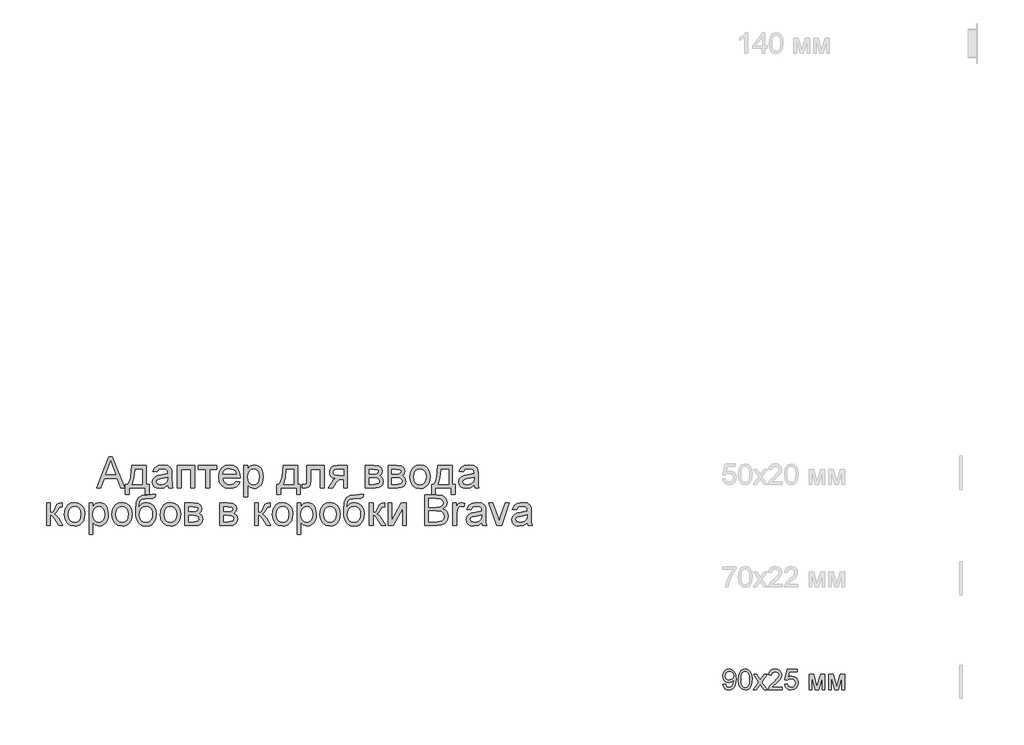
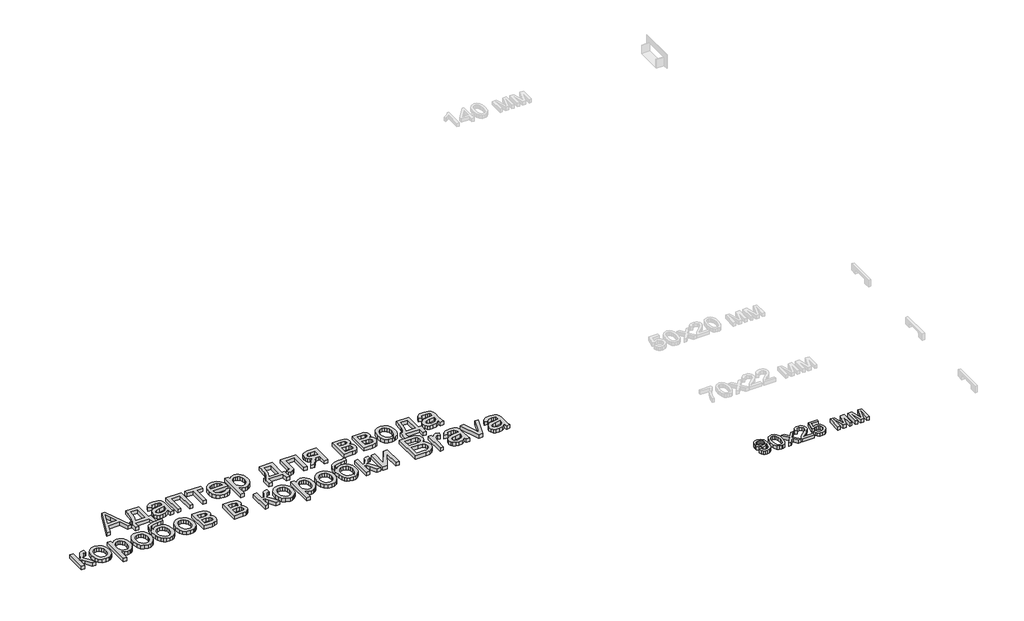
# One storey, part 4 of 48: 2 proxies.
"""IFC4 building model written with IfcOpenShell, lengths in millimetres."""

import ifcopenshell
import ifcopenshell.guid

model = None  # the IFC model being written
_history = None  # IfcOwnerHistory: only IFC2X3 demands one
_inside = {}  # id of a spatial element -> (the spatial element, [elements in it])
_under = {}  # id of a project, library or spatial element -> (it, [spatial elements below it])
_declared = {}  # id of a project -> (the project, [libraries it declares])
_typed = {}  # id of a type object -> (the type object, [elements of that type])
_made_of = {}  # id of a material, layer set ... -> (it, [elements and type objects made of it])


def new_model(schema):
    """Start an empty IFC model of exactly this schema.

    Asked for "IFC4X3", IfcOpenShell would pick the latest addendum, in which some entities
    have other attributes; the version numbers below select the first issue.
    IFC2X3 requires an IfcOwnerHistory on every rooted entity: one is made here for all.
    """
    global model, _history
    if schema == "IFC4X3":
        model = ifcopenshell.file(schema_version=(4, 3, 0, 0))
    else:
        model = ifcopenshell.file(schema=schema)
    _inside.clear()
    _under.clear()
    _declared.clear()
    _typed.clear()
    _made_of.clear()
    _history = None
    if model.schema == "IFC2X3":
        org = make("IfcOrganization", Name="unknown")
        user = make(
            "IfcPersonAndOrganization",
            ThePerson=make("IfcPerson", FamilyName="unknown"),
            TheOrganization=org,
        )
        app = make(
            "IfcApplication",
            ApplicationDeveloper=org,
            Version="unknown",
            ApplicationFullName="unknown",
            ApplicationIdentifier="unknown",
        )
        _history = make(
            "IfcOwnerHistory",
            OwningUser=user,
            OwningApplication=app,
            ChangeAction="ADDED",
            CreationDate=0,
        )
    return model


def make(cls, **values):
    """One entity of the class cls with the attributes given. An attribute that is None is left unset."""
    return model.create_entity(
        cls, **{name: value for name, value in values.items() if value is not None}
    )


def rooted(cls, **values):
    """An entity with a GlobalId (a new one), such as an element, a storey or a relation."""
    return make(cls, GlobalId=ifcopenshell.guid.new(), OwnerHistory=_history, **values)


def si_unit(unit_type, name, prefix=None):
    """IfcSIUnit, for example si_unit("LENGTHUNIT", "METRE", prefix="MILLI")."""
    return make("IfcSIUnit", UnitType=unit_type, Prefix=prefix, Name=name)


def assignment(units):
    """IfcUnitAssignment: the units of a project."""
    return None if units is None else make("IfcUnitAssignment", Units=units)


def point(xyz):
    """IfcCartesianPoint."""
    return None if xyz is None else make("IfcCartesianPoint", Coordinates=xyz)


def direction(xyz):
    """IfcDirection."""
    return None if xyz is None else make("IfcDirection", DirectionRatios=xyz)


def frame(location, z_axis=None, x_axis=None):
    """IfcAxis2Placement3D, a coordinate frame: its origin and axes. An axis left out is left unset."""
    return make(
        "IfcAxis2Placement3D",
        Location=point(location),
        Axis=direction(z_axis),
        RefDirection=direction(x_axis),
    )


def origin():
    """The frame at (0, 0, 0) with its axes left unset."""
    return frame((0.0, 0.0, 0.0))


def origin_with_axes():
    """The frame at (0, 0, 0) with the z axis (0, 0, 1) and the x axis (1, 0, 0) written out."""
    return frame((0.0, 0.0, 0.0), z_axis=(0.0, 0.0, 1.0), x_axis=(1.0, 0.0, 0.0))


def place(relative_to, where):
    """IfcLocalPlacement: puts the frame where relative to a parent placement (None: the world)."""
    return make(
        "IfcLocalPlacement", PlacementRelTo=relative_to, RelativePlacement=where
    )


def context(
    kind, dimensions, precision=None, world=None, true_north=None, identifier=None
):
    """IfcGeometricRepresentationContext, for example the 3D "Model" context."""
    return make(
        "IfcGeometricRepresentationContext",
        ContextIdentifier=identifier,
        ContextType=kind,
        CoordinateSpaceDimension=dimensions,
        Precision=precision,
        WorldCoordinateSystem=world,
        TrueNorth=true_north,
    )


def project(units=None, contexts=None):
    """IfcProject with its units and contexts."""
    return rooted(
        "IfcProject",
        Name="project",
        RepresentationContexts=contexts,
        UnitsInContext=assignment(units),
    )


def spatial(cls, under=None, at=None, **own):
    """A site, building, storey or space (cls), placed at a placement, below another one or the project."""
    s = rooted(cls, ObjectPlacement=at, **own)
    if under is not None:
        _under.setdefault(under.id(), (under, []))[1].append(s)
    return s


def polyline(points):
    """IfcPolyline through the points."""
    return make("IfcPolyline", Points=[point(p) for p in points])


def outline(outer, holes=None, kind="AREA"):
    """IfcArbitraryClosedProfileDef: a profile drawn as a closed curve; with holes, ...WithVoids."""
    if holes is None:
        return make("IfcArbitraryClosedProfileDef", ProfileType=kind, OuterCurve=outer)
    return make(
        "IfcArbitraryProfileDefWithVoids",
        ProfileType=kind,
        OuterCurve=outer,
        InnerCurves=holes,
    )


def extrude(swept, where, along, depth):
    """IfcExtrudedAreaSolid: the profile swept, set in the frame where, extruded along a direction by depth."""
    return make(
        "IfcExtrudedAreaSolid",
        SweptArea=swept,
        Position=where,
        ExtrudedDirection=direction(along),
        Depth=depth,
    )


def shape(context_of_items, identifier, shape_type, items):
    """IfcShapeRepresentation: the items that make up one representation, for example the "Body"."""
    return make(
        "IfcShapeRepresentation",
        ContextOfItems=context_of_items,
        RepresentationIdentifier=identifier,
        RepresentationType=shape_type,
        Items=items,
    )


def made_of(thing, what):
    """Note that an element or type object is made of a material, layer set ...; save() writes the relation."""
    if what is not None:
        _made_of.setdefault(what.id(), (what, []))[1].append(thing)
    return thing


def element(
    cls,
    number,
    at=None,
    inside=None,
    cuts=None,
    type_object=None,
    material=None,
    context=None,
    identifier="Body",
    shape_type=None,
    held_by="IfcProductDefinitionShape",
    body=None,
    shapes=None,
    **own,
):
    """One element of the class cls, such as IfcWall. Its Tag is "e" and its number.

    at: its placement. inside: the storey or other place that contains it. cuts: it is an
    opening in that element (IfcRelVoidsElement). A single representation is given by context,
    identifier, shape_type and body (its items); several are given by shapes. held_by: the class
    of the entity that holds the representations. save() writes the other relations.
    """
    e = rooted(cls, Tag="e%d" % number, ObjectPlacement=at, **own)
    if body is not None:
        shapes = [shape(context, identifier, shape_type, body)]
    if shapes is not None:
        e.Representation = make(held_by, Representations=shapes)
    if inside is not None:
        _inside.setdefault(inside.id(), (inside, []))[1].append(e)
    if cuts is not None:
        rooted(
            "IfcRelVoidsElement", RelatingBuildingElement=cuts, RelatedOpeningElement=e
        )
    if type_object is not None:
        _typed.setdefault(type_object.id(), (type_object, []))[1].append(e)
    return made_of(e, material)


def aggregate(whole, parts):
    """IfcRelAggregates: a whole, such as a stair, and the parts it consists of."""
    return rooted("IfcRelAggregates", RelatingObject=whole, RelatedObjects=parts)


def save(model, path):
    """Write the relations noted so far, then the file.

    IfcRelAggregates (storeys below a building ...), IfcRelContainedInSpatialStructure (elements
    in a storey), IfcRelDefinesByType, IfcRelAssociatesMaterial and IfcRelDeclares: one each for
    every whole, place, type object, material and project.
    """
    for whole, parts in _under.values():
        aggregate(whole, parts)
    for where, things in _inside.values():
        rooted(
            "IfcRelContainedInSpatialStructure",
            RelatedElements=things,
            RelatingStructure=where,
        )
    for kind, things in _typed.values():
        rooted("IfcRelDefinesByType", RelatedObjects=things, RelatingType=kind)
    for what, things in _made_of.values():
        rooted("IfcRelAssociatesMaterial", RelatedObjects=things, RelatingMaterial=what)
    for by, libraries in _declared.values():
        rooted("IfcRelDeclares", RelatingContext=by, RelatedDefinitions=libraries)
    model.write(path)


model = new_model("IFC4")

# Units and contexts
model_context = context("Model", 3, world=origin())
ifc_project = project(units=[si_unit("LENGTHUNIT", "METRE", prefix="MILLI")], contexts=[model_context])

# Site, building, storey
site = spatial("IfcSite", under=ifc_project)
building = spatial("IfcBuilding", under=site)
storey = spatial("IfcBuildingStorey", under=building, Name="Этаж 01", Elevation=0.0)

# Proxies
placement = place(None, origin())
element("IfcBuildingElementProxy", 1, Name="150 мм Arial", ObjectType="150 мм Arial", at=placement, inside=storey, context=model_context, shape_type="SweptSolid", body=[
    extrude(outline(polyline([(8742.6061361, -35244.5141452), (8802.7548424, -35093.8296799), (8818.7944973, -35093.8296799), (8878.9432036, -35244.5141452), (8859.0407876, -35244.5141452), (8841.787122, -35197.4252498), (8779.7254295, -35197.4252498), (8762.5085521, -35244.5141452), (8742.6061361, -35244.5141452)]), holes=[polyline([(8786.641611, -35178.5896916), (8834.9077287, -35178.5896916), (8821.3328831, -35141.5439747), (8810.7746699, -35112.6652381), (8801.393679, -35138.3066132), (8786.641611, -35178.5896916)])]), origin_with_axes(), (0.0, 0.0, 1.0), 20.0),
    extrude(outline(polyline([(8913.1930173, -35133.855241), (8983.8263604, -35133.855241), (8983.8263604, -35225.678587), (8997.953029, -35225.678587), (8997.953029, -35275.1219272), (8979.1174708, -35275.1219272), (8979.1174708, -35244.5141452), (8901.4207935, -35244.5141452), (8901.4207935, -35275.1219272), (8882.5852353, -35275.1219272), (8882.5852353, -35225.678587), (8894.3574592, -35225.678587), (8902.9153141, -35210.2137476), (8908.9071921, -35189.7549102), (8913.1930173, -35133.855241)]), holes=[polyline([(8929.6741307, -35152.6907992), (8925.2595468, -35195.6042339), (8915.5474621, -35225.678587), (8964.9908022, -35225.678587), (8964.9908022, -35152.6907992), (8929.6741307, -35152.6907992)])]), origin_with_axes(), (0.0, 0.0, 1.0), 20.0),
    extrude(outline(polyline([(9089.776375, -35230.3874765), (9071.5110339, -35243.1529818), (9051.3327065, -35246.8685899), (9035.5919556, -35244.6337068), (9023.9806802, -35237.9290574), (9016.8207768, -35227.7479232), (9014.4341424, -35215.0835855), (9018.0393859, -35200.1843647), (9027.5123473, -35189.3686341), (9040.7009168, -35183.1882166), (9056.9980892, -35180.3555252), (9089.6660104, -35173.8808021), (9089.776375, -35169.6869473), (9088.479591, -35161.2808437), (9084.5892389, -35155.7810079), (9075.8888297, -35151.6975178), (9063.7671179, -35150.3363544), (9044.7108306, -35153.959992), (9035.6241453, -35166.8174678), (9016.7885872, -35164.463023), (9024.9371733, -35146.0689232), (9041.3447103, -35135.2899808), (9066.1951391, -35131.5007962), (9089.0222169, -35134.8485224), (9101.9164808, -35143.254626), (9107.6922282, -35156.0385253), (9108.6119331, -35172.5196387), (9108.6119331, -35195.9537218), (9109.5684263, -35228.6768253), (9113.3208227, -35244.5141452), (9094.4852645, -35244.5141452), (9089.776375, -35230.3874765)]), holes=[polyline([(9089.776375, -35192.7163602), (9059.3893222, -35198.4921076), (9043.1841203, -35201.5455281), (9035.8448745, -35206.5119351), (9033.2697005, -35213.7592104), (9038.879901, -35223.9495416), (9055.3426202, -35228.0330318), (9074.3989076, -35223.5264773), (9086.6861662, -35212.6187762), (9089.6660104, -35198.0506492), (9089.776375, -35192.7163602)])]), origin_with_axes(), (0.0, 0.0, 1.0), 20.0),
    extrude(outline(polyline([(9134.5108256, -35133.855241), (9219.2708373, -35133.855241), (9219.2708373, -35244.5141452), (9200.4352791, -35244.5141452), (9200.4352791, -35152.6907992), (9153.3463838, -35152.6907992), (9153.3463838, -35244.5141452), (9134.5108256, -35244.5141452), (9134.5108256, -35133.855241)])), origin_with_axes(), (0.0, 0.0, 1.0), 20.0),
    extrude(outline(polyline([(9238.1063955, -35133.855241), (9327.5752967, -35133.855241), (9327.5752967, -35152.6907992), (9292.2586251, -35152.6907992), (9292.2586251, -35244.5141452), (9273.423067, -35244.5141452), (9273.423067, -35152.6907992), (9238.1063955, -35152.6907992), (9238.1063955, -35133.855241)])), origin_with_axes(), (0.0, 0.0, 1.0), 20.0),
    extrude(outline(polyline([(9421.5323582, -35211.5519184), (9440.0000344, -35213.9063632), (9433.3459688, -35227.8214996), (9422.7279747, -35238.223363), (9408.3851754, -35244.7072832), (9390.5566943, -35246.8685899), (9368.4561834, -35243.1391862), (9351.4508382, -35231.950975), (9340.6075164, -35214.0305233), (9336.9930758, -35190.1043981), (9340.6443046, -35165.3735309), (9351.597991, -35146.8782636), (9368.3734099, -35135.3451631), (9389.4898365, -35131.5007962), (9409.9486739, -35135.335966), (9426.2964301, -35146.8414754), (9437.0155917, -35165.2999545), (9440.5886456, -35189.9940335), (9440.478281, -35195.070805), (9355.8286339, -35195.070805), (9359.0889881, -35209.1698825), (9366.6627587, -35219.5349577), (9377.5934524, -35225.9085133), (9390.9245762, -35228.0330318), (9409.3922524, -35224.0966944), (9421.5323582, -35211.5519184)]), holes=[polyline([(9355.8286339, -35176.2352469), (9421.7530874, -35176.2352469), (9419.2055046, -35166.2840389), (9414.2115065, -35159.1655223), (9403.230229, -35152.5436464), (9389.4162601, -35150.3363544), (9376.7197327, -35152.0975894), (9366.2213003, -35157.3812946), (9358.9234412, -35165.6172528), (9355.8286339, -35176.2352469)])]), origin_with_axes(), (0.0, 0.0, 1.0), 20.0),
    extrude(outline(polyline([(9459.4242038, -35286.894151), (9459.4242038, -35133.855241), (9478.2597619, -35133.855241), (9478.2597619, -35152.3229172), (9491.2827845, -35136.7063265), (9508.8675439, -35131.5007962), (9521.605458, -35133.3218121), (9532.7430854, -35138.7848597), (9541.8113766, -35147.5588453), (9548.341282, -35159.3126751), (9553.6019945, -35188.3385645), (9552.116671, -35204.4471974), (9547.6607003, -35218.854376), (9540.3766368, -35230.8289349), (9530.4070347, -35239.6397087), (9518.7957592, -35245.0613696), (9506.5866755, -35246.8685899), (9490.1975326, -35242.0309417), (9478.2597619, -35229.7988654), (9478.2597619, -35286.894151), (9459.4242038, -35286.894151)]), holes=[polyline([(9478.2597619, -35190.0676099), (9480.2969085, -35206.9533935), (9486.4083481, -35218.7624055), (9495.4260555, -35225.7153752), (9506.1820053, -35228.0330318), (9517.1126991, -35225.6326018), (9526.3603328, -35218.4313117), (9532.6649105, -35206.1900383), (9534.7664364, -35188.6696583), (9532.7154942, -35171.8758452), (9526.5626679, -35159.9012863), (9517.558756, -35152.7275874), (9506.9545575, -35150.3363544), (9496.3089723, -35152.8793387), (9486.9601711, -35160.5082916), (9480.4348642, -35172.9840897), (9478.2597619, -35190.0676099)])]), origin_with_axes(), (0.0, 0.0, 1.0), 20.0),
    extrude(outline(polyline([(9650.1342301, -35133.855241), (9720.7675731, -35133.855241), (9720.7675731, -35225.678587), (9734.8942417, -35225.678587), (9734.8942417, -35275.1219272), (9716.0586836, -35275.1219272), (9716.0586836, -35244.5141452), (9638.3620062, -35244.5141452), (9638.3620062, -35275.1219272), (9619.5264481, -35275.1219272), (9619.5264481, -35225.678587), (9631.2986719, -35225.678587), (9639.8565268, -35210.2137476), (9645.8484048, -35189.7549102), (9650.1342301, -35133.855241)]), holes=[polyline([(9666.6153434, -35152.6907992), (9662.2007595, -35195.6042339), (9652.4886748, -35225.678587), (9701.932015, -35225.678587), (9701.932015, -35152.6907992), (9666.6153434, -35152.6907992)])]), origin_with_axes(), (0.0, 0.0, 1.0), 20.0),
    extrude(outline(polyline([(9765.5020237, -35133.855241), (9850.2620354, -35133.855241), (9850.2620354, -35244.4037806), (9831.4264773, -35244.4037806), (9831.4264773, -35152.6907992), (9784.3375819, -35152.6907992), (9784.3375819, -35205.4818655), (9783.068389, -35229.8356536), (9776.0970252, -35240.1179553), (9759.6159118, -35244.5141452), (9744.3120208, -35243.557652), (9744.3120208, -35225.678587), (9752.7365185, -35225.678587), (9761.2529867, -35224.5197587), (9764.6558951, -35220.8409388), (9765.5020237, -35204.4150077), (9765.5020237, -35133.855241)])), origin_with_axes(), (0.0, 0.0, 1.0), 20.0),
    extrude(outline(polyline([(9963.2753843, -35133.855241), (9963.2753843, -35244.5141452), (9944.4398262, -35244.5141452), (9944.4398262, -35202.1341393), (9934.1759185, -35202.1341393), (9920.1964027, -35204.5253723), (9907.0630155, -35220.6018155), (9892.0534301, -35244.5141452), (9870.274816, -35244.5141452), (9889.1839505, -35214.2742452), (9897.5348718, -35203.4217263), (9905.2236055, -35198.6024722), (9892.3477357, -35194.6569378), (9883.2978386, -35187.1613421), (9877.9451556, -35177.19174), (9876.1609279, -35165.8241864), (9878.5981461, -35152.9299225), (9885.9098008, -35142.7211971), (9897.8383745, -35136.07173), (9914.1263498, -35133.855241), (9963.2753843, -35133.855241)]), holes=[polyline([(9944.4398262, -35152.6907992), (9919.6077915, -35152.6907992), (9906.7825055, -35153.7806496), (9899.5030405, -35157.0502008), (9894.996486, -35167.2589262), (9896.6565535, -35174.4372236), (9901.6367561, -35179.4174261), (9925.1628096, -35183.2985812), (9944.4398262, -35183.2985812), (9944.4398262, -35152.6907992)])]), origin_with_axes(), (0.0, 0.0, 1.0), 20.0),
    extrude(outline(polyline([(10050.3898408, -35133.855241), (10091.8869299, -35133.855241), (10114.6404313, -35136.3752327), (10127.4427247, -35145.6090708), (10132.7954077, -35161.703908), (10129.5580462, -35174.782113), (10119.8091733, -35184.1079216), (10132.4643139, -35194.3166469), (10137.5042973, -35212.0669532), (10134.312921, -35226.423548), (10126.7253548, -35236.5311059), (10114.7140077, -35242.5183853), (10098.2512884, -35244.5141452), (10050.3898408, -35244.5141452), (10050.3898408, -35133.855241)]), holes=[polyline([(10069.225399, -35176.2352469), (10087.8402279, -35176.2352469), (10103.1993012, -35175.2787537), (10110.6673057, -35171.4527809), (10113.9598496, -35164.5365994), (10112.5159127, -35158.9172019), (10108.1841022, -35155.3027613), (10088.4288391, -35152.6907992), (10069.225399, -35152.6907992), (10069.225399, -35176.2352469)]), polyline([(10069.225399, -35225.678587), (10092.3283883, -35225.678587), (10112.8194154, -35222.2756786), (10117.0592554, -35217.6357669), (10118.6687391, -35210.5218488), (10115.4497716, -35201.4535576), (10107.0620622, -35196.174451), (10090.4889783, -35195.070805), (10069.225399, -35195.070805), (10069.225399, -35225.678587)])]), origin_with_axes(), (0.0, 0.0, 1.0), 20.0),
    extrude(outline(polyline([(10161.048745, -35133.855241), (10202.545834, -35133.855241), (10225.2993354, -35136.3752327), (10238.1016288, -35145.6090708), (10243.4543119, -35161.703908), (10240.2169503, -35174.782113), (10230.4680774, -35184.1079216), (10243.1232181, -35194.3166469), (10248.1632014, -35212.0669532), (10244.9718251, -35226.423548), (10237.384259, -35236.5311059), (10225.3729118, -35242.5183853), (10208.9101925, -35244.5141452), (10161.048745, -35244.5141452), (10161.048745, -35133.855241)]), holes=[polyline([(10179.8843031, -35176.2352469), (10198.4991321, -35176.2352469), (10213.8582054, -35175.2787537), (10221.3262099, -35171.4527809), (10224.6187537, -35164.5365994), (10223.1748169, -35158.9172019), (10218.8430064, -35155.3027613), (10199.0877433, -35152.6907992), (10179.8843031, -35152.6907992), (10179.8843031, -35176.2352469)]), polyline([(10179.8843031, -35225.678587), (10202.9872924, -35225.678587), (10223.4783195, -35222.2756786), (10227.7181595, -35217.6357669), (10229.3276433, -35210.5218488), (10226.1086758, -35201.4535576), (10217.7209663, -35196.174451), (10201.1478824, -35195.070805), (10179.8843031, -35195.070805), (10179.8843031, -35225.678587)])]), origin_with_axes(), (0.0, 0.0, 1.0), 20.0),
    extrude(outline(polyline([(10266.9987596, -35189.1846931), (10271.0730527, -35162.5040514), (10283.2959319, -35143.7512667), (10298.3974879, -35134.5634139), (10316.4788879, -35131.5007962), (10336.2663407, -35135.2302), (10352.0714709, -35146.4184111), (10362.4319476, -35164.182513), (10365.8854399, -35187.6395887), (10364.3587296, -35206.6682849), (10359.7785987, -35221.1536385), (10352.2784046, -35232.0015588), (10341.9915043, -35240.1179553), (10329.7732235, -35245.1809313), (10316.4788879, -35246.8685899), (10296.4523118, -35243.1529818), (10280.6655757, -35232.0061573), (10270.4154636, -35213.869575), (10266.9987596, -35189.1846931)]), holes=[polyline([(10285.8343177, -35189.1479049), (10288.0140185, -35206.1946368), (10294.553121, -35218.3393412), (10304.3939644, -35225.6096091), (10316.4788879, -35228.0330318), (10328.5086292, -35225.5958136), (10338.3310784, -35218.2841589), (10344.8701809, -35205.9785062), (10347.0498817, -35188.5592937), (10344.8563853, -35172.0092024), (10338.2758961, -35160.030045), (10328.4396513, -35152.759777), (10316.4788879, -35150.3363544), (10304.3939644, -35152.75058), (10294.553121, -35159.9932568), (10288.0140185, -35172.11037), (10285.8343177, -35189.1479049)])]), origin_with_axes(), (0.0, 0.0, 1.0), 20.0),
    extrude(outline(polyline([(10403.5565562, -35133.855241), (10474.1898992, -35133.855241), (10474.1898992, -35225.678587), (10488.3165679, -35225.678587), (10488.3165679, -35275.1219272), (10469.4810097, -35275.1219272), (10469.4810097, -35244.5141452), (10391.7843323, -35244.5141452), (10391.7843323, -35275.1219272), (10372.9487742, -35275.1219272), (10372.9487742, -35225.678587), (10384.720998, -35225.678587), (10393.2788529, -35210.2137476), (10399.2707309, -35189.7549102), (10403.5565562, -35133.855241)]), holes=[polyline([(10420.0376696, -35152.6907992), (10415.6230856, -35195.6042339), (10405.9110009, -35225.678587), (10455.3543411, -35225.678587), (10455.3543411, -35152.6907992), (10420.0376696, -35152.6907992)])]), origin_with_axes(), (0.0, 0.0, 1.0), 20.0),
    extrude(outline(polyline([(10580.1399139, -35230.3874765), (10561.8745728, -35243.1529818), (10541.6962454, -35246.8685899), (10525.9554945, -35244.6337068), (10514.344219, -35237.9290574), (10507.1843157, -35227.7479232), (10504.7976812, -35215.0835855), (10508.4029248, -35200.1843647), (10517.8758862, -35189.3686341), (10531.0644557, -35183.1882166), (10547.3616281, -35180.3555252), (10580.0295493, -35173.8808021), (10580.1399139, -35169.6869473), (10578.8431298, -35161.2808437), (10574.9527777, -35155.7810079), (10566.2523685, -35151.6975178), (10554.1306568, -35150.3363544), (10535.0743694, -35153.959992), (10525.9876842, -35166.8174678), (10507.152126, -35164.463023), (10515.3007122, -35146.0689232), (10531.7082492, -35135.2899808), (10556.558678, -35131.5007962), (10579.3857558, -35134.8485224), (10592.2800197, -35143.254626), (10598.055767, -35156.0385253), (10598.975472, -35172.5196387), (10598.975472, -35195.9537218), (10599.9319652, -35228.6768253), (10603.6843615, -35244.5141452), (10584.8488034, -35244.5141452), (10580.1399139, -35230.3874765)]), holes=[polyline([(10580.1399139, -35192.7163602), (10549.7528611, -35198.4921076), (10533.5476592, -35201.5455281), (10526.2084134, -35206.5119351), (10523.6332394, -35213.7592104), (10529.2434398, -35223.9495416), (10545.7061591, -35228.0330318), (10564.7624465, -35223.5264773), (10577.0497051, -35212.6187762), (10580.0295493, -35198.0506492), (10580.1399139, -35192.7163602)])]), origin_with_axes(), (0.0, 0.0, 1.0), 20.0),
    extrude(outline(polyline([(8498.8107379, -35316.8174678), (8517.6462961, -35316.8174678), (8517.6462961, -35363.9063632), (8530.2646485, -35360.5218488), (8540.6021326, -35340.8033739), (8549.1921772, -35323.7888316), (8556.7705463, -35318.2522076), (8570.547727, -35316.8174678), (8574.1529706, -35316.8174678), (8574.1529706, -35335.7633905), (8569.076199, -35335.6530259), (8559.8791491, -35337.6395887), (8553.404426, -35350.0372119), (8545.8076628, -35363.4465107), (8535.1574791, -35370.0132043), (8547.0400675, -35377.343253), (8558.7019268, -35392.7850998), (8578.8618601, -35427.4763719), (8557.451128, -35427.4763719), (8537.6958648, -35393.5208638), (8527.763051, -35379.1550719), (8517.6462961, -35375.678587), (8517.6462961, -35427.4763719), (8498.8107379, -35427.4763719), (8498.8107379, -35316.8174678)])), origin_with_axes(), (0.0, 0.0, 1.0), 20.0),
    extrude(outline(polyline([(8585.9251944, -35372.1469199), (8589.9994875, -35345.4662782), (8602.2223668, -35326.7134934), (8617.3239227, -35317.5256406), (8635.4053228, -35314.463023), (8655.1927756, -35318.1924267), (8670.9979058, -35329.3806379), (8681.3583825, -35347.1447398), (8684.8118747, -35370.6018155), (8683.2851644, -35389.6305117), (8678.7050336, -35404.1158652), (8671.2048394, -35414.9637856), (8660.9179391, -35423.0801821), (8648.6996584, -35428.143158), (8635.4053228, -35429.8308167), (8615.3787466, -35426.1152085), (8599.5920105, -35414.9683841), (8589.3418984, -35396.8318017), (8585.9251944, -35372.1469199)]), holes=[polyline([(8604.7607526, -35372.1101317), (8606.9404534, -35389.1568636), (8613.4795558, -35401.301568), (8623.3203992, -35408.5718359), (8635.4053228, -35410.9952585), (8647.435064, -35408.5580403), (8657.2575133, -35401.2463857), (8663.7966157, -35388.9407329), (8665.9763166, -35371.5215205), (8663.7828202, -35354.9714292), (8657.202331, -35342.9922717), (8647.3660861, -35335.7220038), (8635.4053228, -35333.2985812), (8623.3203992, -35335.7128068), (8613.4795558, -35342.9554835), (8606.9404534, -35355.0725968), (8604.7607526, -35372.1101317)])]), origin_with_axes(), (0.0, 0.0, 1.0), 20.0),
    extrude(outline(polyline([(8706.0018776, -35469.8563778), (8706.0018776, -35316.8174678), (8724.8374358, -35316.8174678), (8724.8374358, -35335.2851439), (8737.8604584, -35319.6685532), (8755.4452178, -35314.463023), (8768.1831319, -35316.2840389), (8779.3207593, -35321.7470865), (8788.3890504, -35330.5210721), (8794.9189559, -35342.2749018), (8800.1796684, -35371.3007913), (8798.6943448, -35387.4094241), (8794.2383742, -35401.8166028), (8786.9543107, -35413.7911617), (8776.9847086, -35422.6019355), (8765.3734331, -35428.0235964), (8753.1643494, -35429.8308167), (8736.7752065, -35424.9931685), (8724.8374358, -35412.7610921), (8724.8374358, -35469.8563778), (8706.0018776, -35469.8563778)]), holes=[polyline([(8724.8374358, -35373.0298366), (8726.8745823, -35389.9156202), (8732.986022, -35401.7246323), (8742.0037294, -35408.677602), (8752.7596792, -35410.9952585), (8763.690373, -35408.5948285), (8772.9380067, -35401.3935385), (8779.2425843, -35389.1522651), (8781.3441102, -35371.6318851), (8779.2931681, -35354.838072), (8773.1403417, -35342.863513), (8764.1364299, -35335.6898141), (8753.5322314, -35333.2985812), (8742.8866462, -35335.8415655), (8733.537845, -35343.4705183), (8727.0125381, -35355.9463165), (8724.8374358, -35373.0298366)])]), origin_with_axes(), (0.0, 0.0, 1.0), 20.0),
    extrude(outline(polyline([(8816.6607818, -35372.1469199), (8820.7350749, -35345.4662782), (8832.9579542, -35326.7134934), (8848.0595101, -35317.5256406), (8866.1409101, -35314.463023), (8885.9283629, -35318.1924267), (8901.7334932, -35329.3806379), (8912.0939699, -35347.1447398), (8915.5474621, -35370.6018155), (8914.0207518, -35389.6305117), (8909.440621, -35404.1158652), (8901.9404268, -35414.9637856), (8891.6535265, -35423.0801821), (8879.4352457, -35428.143158), (8866.1409101, -35429.8308167), (8846.114334, -35426.1152085), (8830.3275979, -35414.9683841), (8820.0774858, -35396.8318017), (8816.6607818, -35372.1469199)]), holes=[polyline([(8835.4963399, -35372.1101317), (8837.6760408, -35389.1568636), (8844.2151432, -35401.301568), (8854.0559866, -35408.5718359), (8866.1409101, -35410.9952585), (8878.1706514, -35408.5580403), (8887.9931006, -35401.2463857), (8894.5322031, -35388.9407329), (8896.7119039, -35371.5215205), (8894.5184075, -35354.9714292), (8887.9379183, -35342.9922717), (8878.1016735, -35335.7220038), (8866.1409101, -35333.2985812), (8854.0559866, -35335.7128068), (8844.2151432, -35342.9554835), (8837.6760408, -35355.0725968), (8835.4963399, -35372.1101317)])]), origin_with_axes(), (0.0, 0.0, 1.0), 20.0),
    extrude(outline(polyline([(9014.4341424, -35274.4374619), (9030.9152558, -35274.4374619), (9026.0592134, -35289.1343476), (9016.4574934, -35294.4502425), (8993.3912923, -35295.6274649), (8962.3236578, -35299.9684724), (8955.1959441, -35305.615461), (8950.4042811, -35313.8744118), (8946.3759733, -35338.4857173), (8962.6915398, -35320.4594995), (8972.6105581, -35315.9621421), (8983.7159958, -35314.463023), (9003.3149091, -35318.2752002), (9019.2166083, -35329.7117317), (9029.7564275, -35347.6505775), (9033.2697005, -35370.9696975), (9031.5268596, -35388.94993), (9026.2983367, -35403.3801012), (9009.762041, -35422.9330293), (8998.4680638, -35428.1063698), (8983.7159958, -35429.8308167), (8966.7152491, -35427.6097291), (8953.9727365, -35420.9464665), (8944.5963441, -35410.8205146), (8937.6939582, -35398.2113592), (8933.4449211, -35379.2240497), (8932.0285755, -35349.9636355), (8935.6016293, -35313.823828), (8946.320791, -35291.783098), (8964.4527748, -35280.5397045), (8990.2642953, -35276.7919067), (9011.233569, -35276.3688424), (9014.4341424, -35274.4374619)]), holes=[polyline([(9014.4341424, -35370.3810863), (9012.3923973, -35355.5600404), (9006.2671621, -35343.6912475), (8996.4263187, -35335.8967478), (8983.2377492, -35333.2985812), (8969.4881596, -35336.0439006), (8959.2886313, -35344.2798587), (8952.970258, -35357.1051448), (8950.8641336, -35373.6184478), (8953.1909872, -35389.6259131), (8960.1715481, -35401.3751444), (8970.5642145, -35408.59023), (8983.1273846, -35410.9952585), (8995.7549341, -35408.213151), (9005.7521273, -35399.8668282), (9012.2636386, -35386.9311775), (9014.4341424, -35370.3810863)])]), origin_with_axes(), (0.0, 0.0, 1.0), 20.0),
    extrude(outline(polyline([(9052.1052587, -35372.1469199), (9056.1795518, -35345.4662782), (9068.4024311, -35326.7134934), (9083.503987, -35317.5256406), (9101.585387, -35314.463023), (9121.3728399, -35318.1924267), (9137.1779701, -35329.3806379), (9147.5384468, -35347.1447398), (9150.991939, -35370.6018155), (9149.4652287, -35389.6305117), (9144.8850979, -35404.1158652), (9137.3849037, -35414.9637856), (9127.0980034, -35423.0801821), (9114.8797226, -35428.143158), (9101.585387, -35429.8308167), (9081.5588109, -35426.1152085), (9065.7720748, -35414.9683841), (9055.5219627, -35396.8318017), (9052.1052587, -35372.1469199)]), holes=[polyline([(9070.9408168, -35372.1101317), (9073.1205177, -35389.1568636), (9079.6596201, -35401.301568), (9089.5004635, -35408.5718359), (9101.585387, -35410.9952585), (9113.6151283, -35408.5580403), (9123.4375776, -35401.2463857), (9129.97668, -35388.9407329), (9132.1563808, -35371.5215205), (9129.9628844, -35354.9714292), (9123.3823953, -35342.9922717), (9113.5461504, -35335.7220038), (9101.585387, -35333.2985812), (9089.5004635, -35335.7128068), (9079.6596201, -35342.9554835), (9073.1205177, -35355.0725968), (9070.9408168, -35372.1101317)])]), origin_with_axes(), (0.0, 0.0, 1.0), 20.0),
    extrude(outline(polyline([(9172.1819419, -35316.8174678), (9213.679031, -35316.8174678), (9236.4325324, -35319.3374594), (9249.2348258, -35328.5712975), (9254.5875088, -35344.6661348), (9251.3501473, -35357.7443397), (9241.6012744, -35367.0701483), (9254.256415, -35377.2788737), (9259.2963984, -35395.02918), (9256.1050221, -35409.3857748), (9248.5174559, -35419.4933326), (9236.5061088, -35425.4806121), (9220.0433895, -35427.4763719), (9172.1819419, -35427.4763719), (9172.1819419, -35316.8174678)]), holes=[polyline([(9191.0175001, -35359.1974736), (9209.632329, -35359.1974736), (9224.9914023, -35358.2409804), (9232.4594068, -35354.4150077), (9235.7519507, -35347.4988262), (9234.3080139, -35341.8794287), (9229.9762034, -35338.2649881), (9210.2209402, -35335.6530259), (9191.0175001, -35335.6530259), (9191.0175001, -35359.1974736)]), polyline([(9191.0175001, -35408.6408138), (9214.1204894, -35408.6408138), (9234.6115165, -35405.2379053), (9238.8513565, -35400.5979937), (9240.4608402, -35393.4840756), (9237.2418728, -35384.4157844), (9228.8541633, -35379.1366778), (9212.2810794, -35378.0330318), (9191.0175001, -35378.0330318), (9191.0175001, -35408.6408138)])]), origin_with_axes(), (0.0, 0.0, 1.0), 20.0),
    extrude(outline(polyline([(9341.7019653, -35316.8174678), (9383.1990543, -35316.8174678), (9405.9525558, -35319.3374594), (9418.7548492, -35328.5712975), (9424.1075322, -35344.6661348), (9420.8701707, -35357.7443397), (9411.1212978, -35367.0701483), (9423.7764384, -35377.2788737), (9428.8164218, -35395.02918), (9425.6250454, -35409.3857748), (9418.0374793, -35419.4933326), (9406.0261322, -35425.4806121), (9389.5634129, -35427.4763719), (9341.7019653, -35427.4763719), (9341.7019653, -35316.8174678)]), holes=[polyline([(9360.5375234, -35359.1974736), (9379.1523524, -35359.1974736), (9394.5114257, -35358.2409804), (9401.9794302, -35354.4150077), (9405.2719741, -35347.4988262), (9403.8280372, -35341.8794287), (9399.4962267, -35338.2649881), (9379.7409636, -35335.6530259), (9360.5375234, -35335.6530259), (9360.5375234, -35359.1974736)]), polyline([(9360.5375234, -35408.6408138), (9383.6405127, -35408.6408138), (9404.1315399, -35405.2379053), (9408.3713799, -35400.5979937), (9409.9808636, -35393.4840756), (9406.7618961, -35384.4157844), (9398.3741867, -35379.1366778), (9381.8011028, -35378.0330318), (9360.5375234, -35378.0330318), (9360.5375234, -35408.6408138)])]), origin_with_axes(), (0.0, 0.0, 1.0), 20.0),
    extrude(outline(polyline([(9511.2219887, -35316.8174678), (9530.0575468, -35316.8174678), (9530.0575468, -35363.9063632), (9542.6758993, -35360.5218488), (9553.0133833, -35340.8033739), (9561.6034279, -35323.7888316), (9569.181797, -35318.2522076), (9582.9589777, -35316.8174678), (9586.5642213, -35316.8174678), (9586.5642213, -35335.7633905), (9581.4874498, -35335.6530259), (9572.2903999, -35337.6395887), (9565.8156768, -35350.0372119), (9558.2189136, -35363.4465107), (9547.5687298, -35370.0132043), (9559.4513182, -35377.343253), (9571.1131775, -35392.7850998), (9591.2731108, -35427.4763719), (9569.8623787, -35427.4763719), (9550.1071156, -35393.5208638), (9540.1743017, -35379.1550719), (9530.0575468, -35375.678587), (9530.0575468, -35427.4763719), (9511.2219887, -35427.4763719), (9511.2219887, -35316.8174678)])), origin_with_axes(), (0.0, 0.0, 1.0), 20.0),
    extrude(outline(polyline([(9598.3364451, -35372.1469199), (9602.4107382, -35345.4662782), (9614.6336175, -35326.7134934), (9629.7351734, -35317.5256406), (9647.8165735, -35314.463023), (9667.6040263, -35318.1924267), (9683.4091565, -35329.3806379), (9693.7696332, -35347.1447398), (9697.2231254, -35370.6018155), (9695.6964152, -35389.6305117), (9691.1162843, -35404.1158652), (9683.6160901, -35414.9637856), (9673.3291898, -35423.0801821), (9661.1109091, -35428.143158), (9647.8165735, -35429.8308167), (9627.7899974, -35426.1152085), (9612.0032613, -35414.9683841), (9601.7531492, -35396.8318017), (9598.3364451, -35372.1469199)]), holes=[polyline([(9617.1720033, -35372.1101317), (9619.3517041, -35389.1568636), (9625.8908066, -35401.301568), (9635.7316499, -35408.5718359), (9647.8165735, -35410.9952585), (9659.8463147, -35408.5580403), (9669.668764, -35401.2463857), (9676.2078665, -35388.9407329), (9678.3875673, -35371.5215205), (9676.1940709, -35354.9714292), (9669.6135817, -35342.9922717), (9659.7773368, -35335.7220038), (9647.8165735, -35333.2985812), (9635.7316499, -35335.7128068), (9625.8908066, -35342.9554835), (9619.3517041, -35355.0725968), (9617.1720033, -35372.1101317)])]), origin_with_axes(), (0.0, 0.0, 1.0), 20.0),
    extrude(outline(polyline([(9718.4131284, -35469.8563778), (9718.4131284, -35316.8174678), (9737.2486865, -35316.8174678), (9737.2486865, -35335.2851439), (9750.2717091, -35319.6685532), (9767.8564685, -35314.463023), (9780.5943826, -35316.2840389), (9791.73201, -35321.7470865), (9800.8003012, -35330.5210721), (9807.3302066, -35342.2749018), (9812.5909191, -35371.3007913), (9811.1055956, -35387.4094241), (9806.6496249, -35401.8166028), (9799.3655614, -35413.7911617), (9789.3959593, -35422.6019355), (9777.7846839, -35428.0235964), (9765.5756001, -35429.8308167), (9749.1864573, -35424.9931685), (9737.2486865, -35412.7610921), (9737.2486865, -35469.8563778), (9718.4131284, -35469.8563778)]), holes=[polyline([(9737.2486865, -35373.0298366), (9739.2858331, -35389.9156202), (9745.3972727, -35401.7246323), (9754.4149801, -35408.677602), (9765.1709299, -35410.9952585), (9776.1016237, -35408.5948285), (9785.3492574, -35401.3935385), (9791.6538351, -35389.1522651), (9793.755361, -35371.6318851), (9791.7044188, -35354.838072), (9785.5515925, -35342.863513), (9776.5476806, -35335.6898141), (9765.9434821, -35333.2985812), (9755.2978969, -35335.8415655), (9745.9490957, -35343.4705183), (9739.4237888, -35355.9463165), (9737.2486865, -35373.0298366)])]), origin_with_axes(), (0.0, 0.0, 1.0), 20.0),
    extrude(outline(polyline([(9829.0720325, -35372.1469199), (9833.1463256, -35345.4662782), (9845.3692049, -35326.7134934), (9860.4707608, -35317.5256406), (9878.5521609, -35314.463023), (9898.3396137, -35318.1924267), (9914.1447439, -35329.3806379), (9924.5052206, -35347.1447398), (9927.9587128, -35370.6018155), (9926.4320025, -35389.6305117), (9921.8518717, -35404.1158652), (9914.3516775, -35414.9637856), (9904.0647772, -35423.0801821), (9891.8464965, -35428.143158), (9878.5521609, -35429.8308167), (9858.5255847, -35426.1152085), (9842.7388486, -35414.9683841), (9832.4887365, -35396.8318017), (9829.0720325, -35372.1469199)]), holes=[polyline([(9847.9075907, -35372.1101317), (9850.0872915, -35389.1568636), (9856.6263939, -35401.301568), (9866.4672373, -35408.5718359), (9878.5521609, -35410.9952585), (9890.5819021, -35408.5580403), (9900.4043514, -35401.2463857), (9906.9434538, -35388.9407329), (9909.1231547, -35371.5215205), (9906.9296583, -35354.9714292), (9900.3491691, -35342.9922717), (9890.5129242, -35335.7220038), (9878.5521609, -35333.2985812), (9866.4672373, -35335.7128068), (9856.6263939, -35342.9554835), (9850.0872915, -35355.0725968), (9847.9075907, -35372.1101317)])]), origin_with_axes(), (0.0, 0.0, 1.0), 20.0),
    extrude(outline(polyline([(10026.8453931, -35274.4374619), (10043.3265065, -35274.4374619), (10038.4704642, -35289.1343476), (10028.8687441, -35294.4502425), (10005.802543, -35295.6274649), (9974.7349085, -35299.9684724), (9967.6071948, -35305.615461), (9962.8155319, -35313.8744118), (9958.787224, -35338.4857173), (9975.1027905, -35320.4594995), (9985.0218088, -35315.9621421), (9996.1272465, -35314.463023), (10015.7261598, -35318.2752002), (10031.627859, -35329.7117317), (10042.1676782, -35347.6505775), (10045.6809513, -35370.9696975), (10043.9381103, -35388.94993), (10038.7095875, -35403.3801012), (10022.1732918, -35422.9330293), (10010.8793145, -35428.1063698), (9996.1272465, -35429.8308167), (9979.1264998, -35427.6097291), (9966.3839872, -35420.9464665), (9957.0075949, -35410.8205146), (9950.1052089, -35398.2113592), (9945.8561719, -35379.2240497), (9944.4398262, -35349.9636355), (9948.0128801, -35313.823828), (9958.7320417, -35291.783098), (9976.8640255, -35280.5397045), (10002.675546, -35276.7919067), (10023.6448198, -35276.3688424), (10026.8453931, -35274.4374619)]), holes=[polyline([(10026.8453931, -35370.3810863), (10024.803648, -35355.5600404), (10018.6784128, -35343.6912475), (10008.8375694, -35335.8967478), (9995.6489999, -35333.2985812), (9981.8994104, -35336.0439006), (9971.699882, -35344.2798587), (9965.3815088, -35357.1051448), (9963.2753843, -35373.6184478), (9965.602238, -35389.6259131), (9972.5827988, -35401.3751444), (9982.9754652, -35408.59023), (9995.5386353, -35410.9952585), (10008.1661848, -35408.213151), (10018.163378, -35399.8668282), (10024.6748893, -35386.9311775), (10026.8453931, -35370.3810863)])]), origin_with_axes(), (0.0, 0.0, 1.0), 20.0),
    extrude(outline(polyline([(10069.225399, -35316.8174678), (10088.0609571, -35316.8174678), (10088.0609571, -35363.9063632), (10100.6793095, -35360.5218488), (10111.0167936, -35340.8033739), (10119.6068382, -35323.7888316), (10127.1852073, -35318.2522076), (10140.962388, -35316.8174678), (10144.5676316, -35316.8174678), (10144.5676316, -35335.7633905), (10139.49086, -35335.6530259), (10130.2938102, -35337.6395887), (10123.819087, -35350.0372119), (10116.2223238, -35363.4465107), (10105.5721401, -35370.0132043), (10117.4547285, -35377.343253), (10129.1165878, -35392.7850998), (10149.2765211, -35427.4763719), (10127.865789, -35427.4763719), (10108.1105258, -35393.5208638), (10098.177712, -35379.1550719), (10088.0609571, -35375.678587), (10088.0609571, -35427.4763719), (10069.225399, -35427.4763719), (10069.225399, -35316.8174678)])), origin_with_axes(), (0.0, 0.0, 1.0), 20.0),
    extrude(outline(polyline([(10161.048745, -35316.8174678), (10179.8843031, -35316.8174678), (10179.8843031, -35401.2095975), (10226.1638581, -35316.8174678), (10250.5176462, -35316.8174678), (10250.5176462, -35427.4763719), (10231.682088, -35427.4763719), (10231.682088, -35343.599277), (10185.6968386, -35427.4763719), (10161.048745, -35427.4763719), (10161.048745, -35316.8174678)])), origin_with_axes(), (0.0, 0.0, 1.0), 20.0),
    extrude(outline(polyline([(10339.9865474, -35427.4763719), (10339.9865474, -35276.7919067), (10397.4865033, -35276.7919067), (10425.64787, -35281.2248847), (10435.1116343, -35286.8488807), (10442.2761362, -35294.8549127), (10448.2910068, -35314.1319292), (10443.2326294, -35331.7350827), (10427.9471325, -35345.070805), (10438.6203088, -35350.6442172), (10446.5067791, -35359.1238972), (10451.376617, -35369.9488249), (10452.9998963, -35382.5579803), (10448.5669183, -35402.8098841), (10437.5856407, -35417.2308584), (10421.1964978, -35424.8828039), (10397.0450449, -35427.4763719), (10339.9865474, -35427.4763719)]), holes=[polyline([(10358.8221056, -35338.0074707), (10393.2190721, -35338.0074707), (10413.305429, -35336.3887899), (10425.3903526, -35329.4174261), (10429.4554486, -35317.1485616), (10425.6662641, -35304.8613029), (10414.8137452, -35297.5956335), (10390.6071099, -35295.6274649), (10358.8221056, -35295.6274649), (10358.8221056, -35338.0074707)]), polyline([(10358.8221056, -35408.6408138), (10397.4497151, -35408.6408138), (10411.4292309, -35407.9050498), (10423.256637, -35403.8031655), (10431.0925235, -35395.4338501), (10434.1643382, -35382.7419213), (10430.5590946, -35368.1002179), (10418.8788413, -35359.3630205), (10395.6103051, -35356.8430289), (10358.8221056, -35356.8430289), (10358.8221056, -35408.6408138)])]), origin_with_axes(), (0.0, 0.0, 1.0), 20.0),
    extrude(outline(polyline([(10476.544344, -35427.4763719), (10476.544344, -35316.8174678), (10493.0254574, -35316.8174678), (10493.0254574, -35333.1882166), (10504.7241048, -35318.1050548), (10516.4963287, -35314.463023), (10535.4054632, -35320.2755585), (10529.1146811, -35337.1613421), (10515.8709293, -35333.2985812), (10505.2207455, -35337.0141893), (10498.4333227, -35347.3148852), (10495.3799022, -35369.3142285), (10495.3799022, -35427.4763719), (10476.544344, -35427.4763719)])), origin_with_axes(), (0.0, 0.0, 1.0), 20.0),
    extrude(outline(polyline([(10617.8110302, -35413.3497033), (10599.5456891, -35426.1152085), (10579.3673617, -35429.8308167), (10563.6266108, -35427.5959336), (10552.0153353, -35420.8912842), (10544.855432, -35410.71015), (10542.4687976, -35398.0458123), (10546.0740411, -35383.1465915), (10555.5470025, -35372.3308608), (10568.735572, -35366.1504433), (10585.0327444, -35363.317752), (10617.7006656, -35356.8430289), (10617.8110302, -35352.6491741), (10616.5142461, -35344.2430705), (10612.623894, -35338.7432347), (10603.9234848, -35334.6597445), (10591.8017731, -35333.2985812), (10572.7454858, -35336.9222188), (10563.6588005, -35349.7796945), (10544.8232423, -35347.4252498), (10552.9718285, -35329.03115), (10569.3793655, -35318.2522076), (10594.2297943, -35314.463023), (10617.0568721, -35317.8107492), (10629.951136, -35326.2168528), (10635.7268833, -35339.0007521), (10636.6465883, -35355.4818655), (10636.6465883, -35378.9159486), (10637.6030815, -35411.639052), (10641.3554779, -35427.4763719), (10622.5199197, -35427.4763719), (10617.8110302, -35413.3497033)]), holes=[polyline([(10617.8110302, -35375.678587), (10587.4239774, -35381.4543343), (10571.2187755, -35384.5077549), (10563.8795297, -35389.4741618), (10561.3043557, -35396.7214371), (10566.9145561, -35406.9117684), (10583.3772754, -35410.9952585), (10602.4335628, -35406.4887041), (10614.7208214, -35395.5810029), (10617.7006656, -35381.0128759), (10617.8110302, -35375.678587)])]), origin_with_axes(), (0.0, 0.0, 1.0), 20.0),
    extrude(outline(polyline([(10689.695172, -35427.4763719), (10650.7732569, -35316.8174678), (10670.7124611, -35316.8174678), (10694.293697, -35383.1098033), (10701.3938195, -35405.4034522), (10708.3467892, -35384.3606021), (10732.0751779, -35316.8174678), (10752.014382, -35316.8174678), (10713.5707135, -35427.4763719), (10689.695172, -35427.4763719)])), origin_with_axes(), (0.0, 0.0, 1.0), 20.0),
    extrude(outline(polyline([(10839.1288385, -35413.3497033), (10820.8634974, -35426.1152085), (10800.68517, -35429.8308167), (10784.9444191, -35427.5959336), (10773.3331436, -35420.8912842), (10766.1732403, -35410.71015), (10763.7866058, -35398.0458123), (10767.3918494, -35383.1465915), (10776.8648108, -35372.3308608), (10790.0533803, -35366.1504433), (10806.3505527, -35363.317752), (10839.0184739, -35356.8430289), (10839.1288385, -35352.6491741), (10837.8320544, -35344.2430705), (10833.9417023, -35338.7432347), (10825.2412931, -35334.6597445), (10813.1195814, -35333.2985812), (10794.0632941, -35336.9222188), (10784.9766088, -35349.7796945), (10766.1410506, -35347.4252498), (10774.2896368, -35329.03115), (10790.6971738, -35318.2522076), (10815.5476026, -35314.463023), (10838.3746804, -35317.8107492), (10851.2689443, -35326.2168528), (10857.0446916, -35339.0007521), (10857.9643966, -35355.4818655), (10857.9643966, -35378.9159486), (10858.9208898, -35411.639052), (10862.6732862, -35427.4763719), (10843.837728, -35427.4763719), (10839.1288385, -35413.3497033)]), holes=[polyline([(10839.1288385, -35375.678587), (10808.7417857, -35381.4543343), (10792.5365838, -35384.5077549), (10785.197338, -35389.4741618), (10782.622164, -35396.7214371), (10788.2323644, -35406.9117684), (10804.6950837, -35410.9952585), (10823.7513711, -35406.4887041), (10836.0386297, -35395.5810029), (10839.0184739, -35381.0128759), (10839.1288385, -35375.678587)])]), origin_with_axes(), (0.0, 0.0, 1.0), 20.0),
])
element("IfcBuildingElementProxy", 2, Name="100 мм Arial", ObjectType="100 мм Arial", at=placement, inside=storey, context=model_context, shape_type="SweptSolid", body=[
    extrude(outline(polyline([(11791.4008048, -36201.3348083), (11803.9578436, -36199.7651784), (11809.5987008, -36211.7458687), (11820.2918041, -36215.4614769), (11830.4576099, -36213.0702439), (11837.349266, -36206.6813599), (11841.4572816, -36195.7675274), (11843.2721661, -36181.1994004), (11843.1985897, -36178.7468538), (11833.1554112, -36188.2627347), (11819.3843619, -36191.9170292), (11807.9340348, -36189.6852118), (11798.4028254, -36182.9897595), (11791.9740876, -36172.646144), (11789.8311749, -36159.4698372), (11792.0783208, -36145.8582034), (11798.8197584, -36135.1896256), (11808.9457103, -36128.2918381), (11821.3463992, -36125.9925757), (11839.2377269, -36131.2410255), (11851.549511, -36146.2015599), (11855.7556285, -36174.3077444), (11851.5617737, -36204.8051618), (11846.3470464, -36214.7962236), (11839.0905741, -36222.0833528), (11830.1050564, -36226.534725), (11819.7031929, -36228.0185157), (11808.9671701, -36226.2680105), (11800.4016509, -36221.016495), (11794.4113058, -36212.595063), (11791.4008048, -36201.3348083)]), holes=[polyline([(11843.1985897, -36159.1755316), (11841.8435577, -36150.6651948), (11837.7784616, -36144.1168953), (11831.4692854, -36139.9414347), (11823.3820129, -36138.5496144), (11814.9943034, -36140.0487336), (11808.2743256, -36144.546091), (11803.8597417, -36151.42855), (11802.3882137, -36160.0829739), (11803.7800339, -36167.8422183), (11807.9554946, -36174.001176), (11814.5099254, -36178.0202868), (11823.0386564, -36179.3599904), (11837.5209442, -36174.001176), (11841.7791783, -36167.6153577), (11843.1985897, -36159.1755316)])]), origin_with_axes(), (0.0, 0.0, 1.0), 20.0),
    extrude(outline(polyline([(11866.7430374, -36177.0300711), (11870.4341201, -36148.126809), (11881.3970035, -36131.4617547), (11899.7052642, -36125.9925757), (11914.371493, -36129.2299372), (11924.5005106, -36138.5618772), (11930.3866226, -36153.4243098), (11932.6674909, -36177.0300711), (11929.0131964, -36205.8107059), (11918.0871012, -36222.5125485), (11909.8557415, -36226.6420239), (11899.7052642, -36228.0185157), (11886.6577161, -36225.6272827), (11876.7494277, -36218.4535838), (11869.244635, -36201.463567), (11866.7430374, -36177.0300711)]), holes=[polyline([(11879.3000762, -36177.0055457), (11880.7716041, -36196.7577431), (11885.1861881, -36208.1896761), (11891.7590131, -36213.6435267), (11899.7052642, -36215.4614769), (11907.6515153, -36213.6373953), (11914.2243402, -36208.1651507), (11918.6389242, -36196.7270863), (11920.1104522, -36177.0055457), (11918.6879751, -36157.6978723), (11914.420544, -36146.1770345), (11907.8599817, -36140.4564694), (11899.5581114, -36138.5496144), (11891.6976994, -36140.2296089), (11885.3823918, -36145.2695922), (11880.8206551, -36157.5077999), (11879.3000762, -36177.0055457)])]), origin_with_axes(), (0.0, 0.0, 1.0), 20.0),
    extrude(outline(polyline([(11938.9460103, -36226.4488858), (11965.7768705, -36189.3663807), (11940.5156402, -36152.6762831), (11955.6233274, -36152.6762831), (11967.8124842, -36170.3346188), (11973.5023924, -36178.6732774), (11978.4320111, -36171.8551977), (11992.3134251, -36152.6762831), (12007.4211124, -36152.6762831), (11980.8845578, -36189.3663807), (12006.4400937, -36226.4488858), (11991.3324064, -36226.4488858), (11975.954939, -36204.1552369), (11973.1345104, -36200.0840095), (11954.0536976, -36226.4488858), (11938.9460103, -36226.4488858)])), origin_with_axes(), (0.0, 0.0, 1.0), 20.0),
    extrude(outline(polyline([(12078.6430666, -36213.8918471), (12078.6430666, -36226.4488858), (12012.7186131, -36226.4488858), (12014.0675137, -36217.7913962), (12021.6949338, -36204.4618052), (12037.4157577, -36189.905941), (12059.0962699, -36168.9857182), (12064.516398, -36154.7609477), (12059.4028383, -36143.2462412), (12046.0487218, -36138.5496144), (12032.1305197, -36143.1358766), (12026.8452817, -36155.8155427), (12014.2882429, -36154.2459129), (12017.3324664, -36142.0996757), (12023.9144885, -36133.2275882), (12033.6909525, -36127.8013288), (12046.318502, -36125.9925757), (12059.038022, -36128.0036639), (12068.7960919, -36134.0369286), (12075.0041005, -36143.0500375), (12077.0734368, -36154.0006582), (12074.8416193, -36165.9077721), (12067.4226658, -36178.2195563), (12049.4332362, -36195.4241709), (12034.9877365, -36207.5029631), (12029.3223538, -36213.8918471), (12078.6430666, -36213.8918471)])), origin_with_axes(), (0.0, 0.0, 1.0), 20.0),
    extrude(outline(polyline([(12091.2001054, -36199.7651784), (12103.7571442, -36198.1955486), (12110.0847145, -36211.1327321), (12123.205839, -36215.4614769), (12132.2066851, -36213.9562264), (12138.9511884, -36209.4404749), (12143.1634372, -36202.4353886), (12144.5675202, -36193.4621336), (12139.3068076, -36178.55065), (12132.7002601, -36174.4487658), (12123.4020427, -36173.0814711), (12112.3778456, -36175.2642376), (12105.326774, -36180.9296203), (12092.7697352, -36179.3599904), (12103.7571442, -36127.5622055), (12152.4156694, -36127.5622055), (12152.4156694, -36140.1192443), (12113.9106872, -36140.1192443), (12108.5396101, -36167.7839703), (12117.5097994, -36162.3393168), (12126.9091844, -36160.5244323), (12138.6415543, -36162.7746438), (12148.3812302, -36169.5252784), (12154.9387267, -36179.8137116), (12157.1245589, -36192.6773187), (12155.1563902, -36205.2343574), (12149.2518842, -36215.9765117), (12137.9456442, -36225.0080147), (12123.156788, -36228.0185157), (12110.8235441, -36226.0840695), (12100.9980292, -36220.280731), (12094.262723, -36211.2829506), (12091.2001054, -36199.7651784)])), origin_with_axes(), (0.0, 0.0, 1.0), 20.0),
    extrude(outline(polyline([(12210.4919737, -36152.6762831), (12232.0989095, -36152.6762831), (12248.7517012, -36211.733606), (12266.7043426, -36152.6762831), (12287.4038361, -36152.6762831), (12287.4038361, -36226.4488858), (12274.8467974, -36226.4488858), (12274.8467974, -36167.0482063), (12256.7960541, -36226.4488858), (12240.3149408, -36226.4488858), (12223.0490125, -36164.2032522), (12223.0490125, -36226.4488858), (12210.4919737, -36226.4488858), (12210.4919737, -36152.6762831)])), origin_with_axes(), (0.0, 0.0, 1.0), 20.0),
    extrude(outline(polyline([(12306.2393943, -36152.6762831), (12327.8463301, -36152.6762831), (12344.4991218, -36211.733606), (12362.4517632, -36152.6762831), (12383.1512568, -36152.6762831), (12383.1512568, -36226.4488858), (12370.594218, -36226.4488858), (12370.594218, -36167.0482063), (12352.5434748, -36226.4488858), (12336.0623614, -36226.4488858), (12318.7964331, -36164.2032522), (12318.7964331, -36226.4488858), (12306.2393943, -36226.4488858), (12306.2393943, -36152.6762831)])), origin_with_axes(), (0.0, 0.0, 1.0), 20.0),
])

save(model, "model.ifc")
